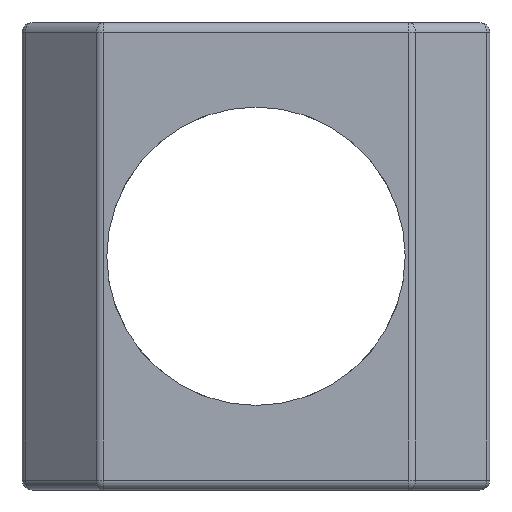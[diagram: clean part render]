
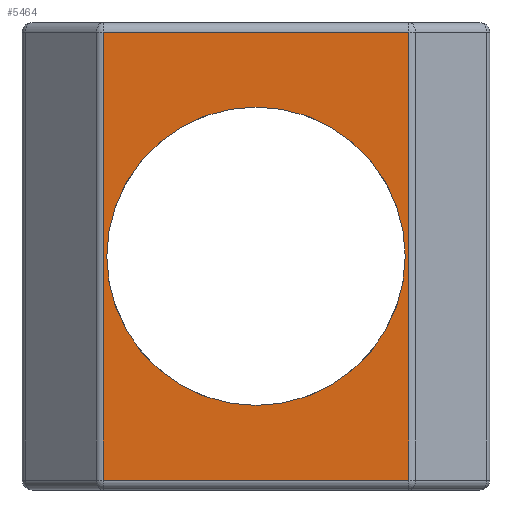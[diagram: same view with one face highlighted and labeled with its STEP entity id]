
A CAD part, front view. The second image highlights one B-rep face of the part: STEP entity #5464.
In plain terms, the highlighted planar face has unit normal (0, -1, 0).
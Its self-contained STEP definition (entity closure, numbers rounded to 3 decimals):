
#127 = PLANE ( 'NONE',  #8361 ) ;
#153 = VECTOR ( 'NONE', #5031, 1000. ) ;
#162 = DIRECTION ( 'NONE',  ( 0., 0., 1. ) ) ;
#368 = LINE ( 'NONE', #2243, #3530 ) ;
#865 = EDGE_CURVE ( 'NONE', #5100, #897, #6008, .T. ) ;
#897 = VERTEX_POINT ( 'NONE', #1661 ) ;
#1423 = AXIS2_PLACEMENT_3D ( 'NONE', #8297, #5821, #2561 ) ;
#1480 = CARTESIAN_POINT ( 'NONE',  ( 3.069, 0., 4.5 ) ) ;
#1661 = CARTESIAN_POINT ( 'NONE',  ( 0., 0., -3. ) ) ;
#2045 = VERTEX_POINT ( 'NONE', #7109 ) ;
#2212 = EDGE_LOOP ( 'NONE', ( #7678, #4348, #5584, #4537 ) ) ;
#2243 = CARTESIAN_POINT ( 'NONE',  ( 3.15, 0., -4.5 ) ) ;
#2288 = ORIENTED_EDGE ( 'NONE', *, *, #4822, .T. ) ;
#2458 = CARTESIAN_POINT ( 'NONE',  ( 3.15, 0., 4.5 ) ) ;
#2561 = DIRECTION ( 'NONE',  ( 0., 0., 1. ) ) ;
#2661 = VERTEX_POINT ( 'NONE', #4086 ) ;
#2675 = CARTESIAN_POINT ( 'NONE',  ( 3.15, 0., 4.7 ) ) ;
#2764 = CARTESIAN_POINT ( 'NONE',  ( 3.069, 0., 4.7 ) ) ;
#3266 = VECTOR ( 'NONE', #6998, 1000. ) ;
#3530 = VECTOR ( 'NONE', #7549, 1000. ) ;
#3997 = FACE_OUTER_BOUND ( 'NONE', #2212, .T. ) ;
#4033 = ORIENTED_EDGE ( 'NONE', *, *, #865, .T. ) ;
#4070 = DIRECTION ( 'NONE',  ( 0., 1., 0. ) ) ;
#4086 = CARTESIAN_POINT ( 'NONE',  ( -3.069, 0., -4.5 ) ) ;
#4152 = CARTESIAN_POINT ( 'NONE',  ( 0., 0., 0. ) ) ;
#4348 = ORIENTED_EDGE ( 'NONE', *, *, #7232, .T. ) ;
#4406 = CARTESIAN_POINT ( 'NONE',  ( -3.069, 0., 4.7 ) ) ;
#4485 = LINE ( 'NONE', #2458, #153 ) ;
#4537 = ORIENTED_EDGE ( 'NONE', *, *, #8199, .T. ) ;
#4656 = AXIS2_PLACEMENT_3D ( 'NONE', #4152, #5385, #7970 ) ;
#4731 = VERTEX_POINT ( 'NONE', #4801 ) ;
#4801 = CARTESIAN_POINT ( 'NONE',  ( -3.069, 0., 4.5 ) ) ;
#4822 = EDGE_CURVE ( 'NONE', #897, #5100, #8036, .T. ) ;
#5031 = DIRECTION ( 'NONE',  ( -1., 0., 0. ) ) ;
#5084 = VECTOR ( 'NONE', #162, 1000. ) ;
#5100 = VERTEX_POINT ( 'NONE', #6684 ) ;
#5256 = DIRECTION ( 'NONE',  ( 0., 0., 1. ) ) ;
#5385 = DIRECTION ( 'NONE',  ( 0., 1., 0. ) ) ;
#5386 = FACE_BOUND ( 'NONE', #6362, .T. ) ;
#5428 = EDGE_CURVE ( 'NONE', #2045, #5841, #7217, .T. ) ;
#5464 = ADVANCED_FACE ( 'NONE', ( #3997, #5386 ), #127, .F. ) ;
#5584 = ORIENTED_EDGE ( 'NONE', *, *, #5428, .T. ) ;
#5821 = DIRECTION ( 'NONE',  ( 0., 1., 0. ) ) ;
#5841 = VERTEX_POINT ( 'NONE', #1480 ) ;
#6008 = CIRCLE ( 'NONE', #4656, 3. ) ;
#6362 = EDGE_LOOP ( 'NONE', ( #4033, #2288 ) ) ;
#6684 = CARTESIAN_POINT ( 'NONE',  ( 0., 0., 3. ) ) ;
#6998 = DIRECTION ( 'NONE',  ( 0., 0., -1. ) ) ;
#7039 = LINE ( 'NONE', #4406, #3266 ) ;
#7109 = CARTESIAN_POINT ( 'NONE',  ( 3.069, 0., -4.5 ) ) ;
#7217 = LINE ( 'NONE', #2764, #5084 ) ;
#7232 = EDGE_CURVE ( 'NONE', #2661, #2045, #368, .T. ) ;
#7549 = DIRECTION ( 'NONE',  ( 1., 0., 0. ) ) ;
#7678 = ORIENTED_EDGE ( 'NONE', *, *, #8214, .T. ) ;
#7970 = DIRECTION ( 'NONE',  ( 0., 0., 1. ) ) ;
#8036 = CIRCLE ( 'NONE', #1423, 3. ) ;
#8199 = EDGE_CURVE ( 'NONE', #5841, #4731, #4485, .T. ) ;
#8214 = EDGE_CURVE ( 'NONE', #4731, #2661, #7039, .T. ) ;
#8297 = CARTESIAN_POINT ( 'NONE',  ( 0., 0., 0. ) ) ;
#8361 = AXIS2_PLACEMENT_3D ( 'NONE', #2675, #4070, #5256 ) ;
